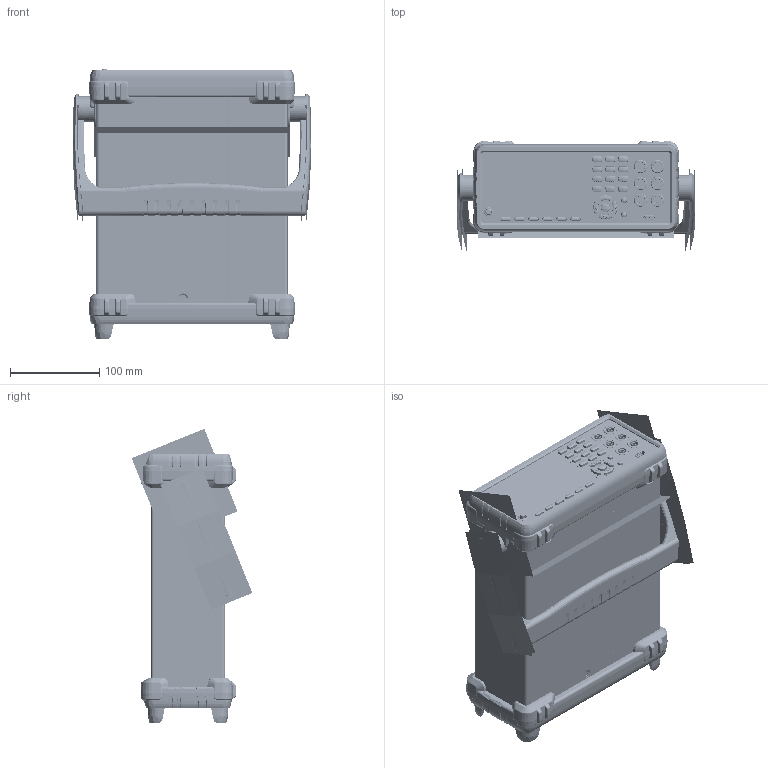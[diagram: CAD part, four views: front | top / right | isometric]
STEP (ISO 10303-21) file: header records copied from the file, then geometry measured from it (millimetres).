
FILE_DESCRIPTION((''),'2;1');
FILE_NAME('GDM-904X_ASM-00_ASM','2025-01-15T10:34:35',('mike_lee'),(''),'CREO PARAMETRIC BY PTC INC, 2019080','CREO PARAMETRIC BY PTC INC, 2019080','');
FILE_SCHEMA(('CONFIG_CONTROL_DESIGN'));
Products named in the file (80): 83XHP00; SO-M4-3-5; FH-M4-12; 62DM-BDHP001; S-M3-1_NUT; 62DM-BDHP001_ASM; 62DM-BDHP002; 62DM-BDHP002_ASM; 62DM-904HP101_ASM; 2MM904XHP; SO-M4-3-5_5; 62DM-904HP101-2MM_ASM; 2MM904XHPX01; 62DM-904HPX01-2MM_ASM; AC-SOCKET-01; 3204-02200301; 3204_PCB; GDM-83XX_MAIN; SW-POWER-01; 63LK-AG101101; D-SUB-MALE-9; 44UB-K0400101; D-SUB-9-FEMALE; 62DM-904SP101; 62SW-080HP501; GDM-83XX_MAIN-PCBA00_ASM; GDM83XX-GP_PCB; SOCKET-GPIB-NEW; SPRING-WASHER-GPIB; 63KB-050900A1; 63KB-06090001; 63KB-07090001; SOCKET-GPIB-NEW_ASM_ASM; GPIB-COPY8341_ASM; FUSE-HOLDER-CQ206S-CONQUER; WASHER; NUT; FUSE-HOLDER-CQ206S-CONQUER_ASM; CQ-207D; 62DM-904SP201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
Assembly tree (127 placements, depth 6):
  GDM-904X_ASM-00_ASM
    GDM-83XX_BODY_ASM
      62DM-904HP101_ASM
        83XHP00
        SO-M4-3-5  x4
        FH-M4-12
        62DM-BDHP001_ASM
          62DM-BDHP001
          S-M3-1_NUT  x2
        62DM-BDHP002_ASM  x2
          62DM-BDHP002
          S-M3-1_NUT
      62DM-904HP101-2MM_ASM
        2MM904XHP
        FH-M4-12
        S-M3-1_NUT  x6
        SO-M4-3-5_5  x4
      62DM-904HPX01-2MM_ASM
        2MM904XHPX01
        FH-M4-12
        S-M3-1_NUT  x6
        SO-M4-3-5_5  x4
      AC-SOCKET-01
      3204-02200301  x2
      3204_PCB
      GDM-83XX_MAIN-PCBA00_ASM
        GDM-83XX_MAIN
        SW-POWER-01
        63LK-AG101101
        D-SUB-MALE-9
        44UB-K0400101
        D-SUB-9-FEMALE
        62DM-904SP101
        62SW-080HP501
      GPIB-COPY8341_ASM
        GDM83XX-GP_PCB
        SOCKET-GPIB-NEW_ASM_ASM
          SOCKET-GPIB-NEW
          SPRING-WASHER-GPIB  x2
          63KB-050900A1  x2
          63KB-06090001  x2
          63KB-07090001  x2
      FUSE-HOLDER-CQ206S-CONQUER_ASM
        FUSE-HOLDER-CQ206S-CONQUER
        WASHER
        NUT
      CQ-207D
      62DM-904SP201
      GDM-83XX_BODY-IO_ASM
        62DM-83XHP-IO_ASM
          83XHP00-IO
          SO-M4-3-5  x4
          FH-M4-12
          62DM-BDHP001_ASM
            62DM-BDHP001
            S-M3-1_NUT  x2
        GDM83XX-RJ_PCBA_ASM
          GDM83XX-ETB_PCB
          RJ-45
      GDM904X_REAR_NP_GPIB
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Bounding box: 267.99 x 135.62 x 330.56 mm (x, y, z)
Volume: 1365351.8 mm3; surface area: 1681231.5 mm2
Topology: 114 solids, 193 shells, 15964 faces, 42749 edges, 27521 vertices
Faces by surface type: plane 8598, cylinder 3410, cone 2287, bspline 1216, torus 371, extrusion 42, sphere 40
Entity records: 519540 total; most frequent: CARTESIAN_POINT 158453, ORIENTED_EDGE 77178, DIRECTION 71033, EDGE_CURVE 39175, VERTEX_POINT 25270, VECTOR 24237, LINE 24195, AXIS2_PLACEMENT_3D 23398
